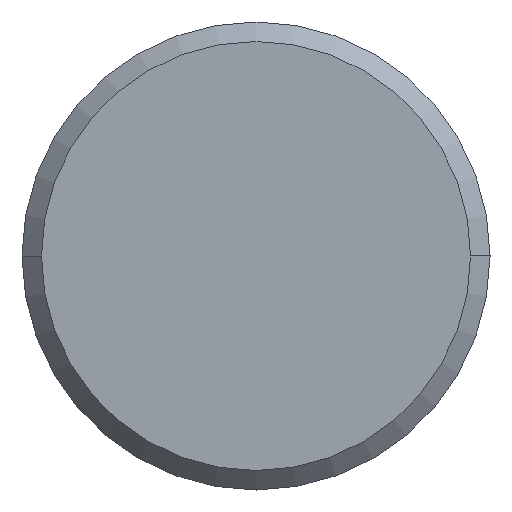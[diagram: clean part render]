
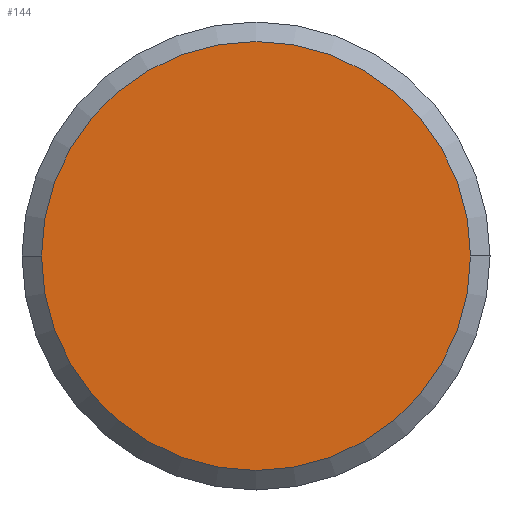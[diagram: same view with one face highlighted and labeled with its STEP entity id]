
A CAD part, left-side view. The second image highlights one B-rep face of the part: STEP entity #144.
In plain terms, the highlighted planar face has unit normal (-1, 0, 0).
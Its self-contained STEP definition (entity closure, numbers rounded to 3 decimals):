
#43 = DIRECTION ( 'NONE',  ( 0., -1., 0. ) ) ;
#44 = AXIS2_PLACEMENT_3D ( 'NONE', #92, #289, #119 ) ;
#46 = VERTEX_POINT ( 'NONE', #57 ) ;
#48 = VERTEX_POINT ( 'NONE', #199 ) ;
#51 = PLANE ( 'NONE',  #226 ) ;
#57 = CARTESIAN_POINT ( 'NONE',  ( -52., 5.5, 0. ) ) ;
#76 = FACE_OUTER_BOUND ( 'NONE', #274, .T. ) ;
#92 = CARTESIAN_POINT ( 'NONE',  ( -52., 0., 0. ) ) ;
#95 = DIRECTION ( 'NONE',  ( 1., 0., 0. ) ) ;
#119 = DIRECTION ( 'NONE',  ( 0., 1., 0. ) ) ;
#141 = AXIS2_PLACEMENT_3D ( 'NONE', #263, #95, #293 ) ;
#144 = ADVANCED_FACE ( 'NONE', ( #76 ), #51, .T. ) ;
#151 = CARTESIAN_POINT ( 'NONE',  ( -52., 0., 0. ) ) ;
#199 = CARTESIAN_POINT ( 'NONE',  ( -52., -5.5, 0. ) ) ;
#222 = ORIENTED_EDGE ( 'NONE', *, *, #342, .F. ) ;
#226 = AXIS2_PLACEMENT_3D ( 'NONE', #151, #312, #43 ) ;
#244 = CIRCLE ( 'NONE', #141, 5.5 ) ;
#262 = CIRCLE ( 'NONE', #44, 5.5 ) ;
#263 = CARTESIAN_POINT ( 'NONE',  ( -52., 0., 0. ) ) ;
#268 = EDGE_CURVE ( 'NONE', #46, #48, #262, .T. ) ;
#274 = EDGE_LOOP ( 'NONE', ( #359, #222 ) ) ;
#289 = DIRECTION ( 'NONE',  ( 1., 0., 0. ) ) ;
#293 = DIRECTION ( 'NONE',  ( 0., 1., 0. ) ) ;
#312 = DIRECTION ( 'NONE',  ( -1., 0., 0. ) ) ;
#342 = EDGE_CURVE ( 'NONE', #48, #46, #244, .T. ) ;
#359 = ORIENTED_EDGE ( 'NONE', *, *, #268, .F. ) ;
